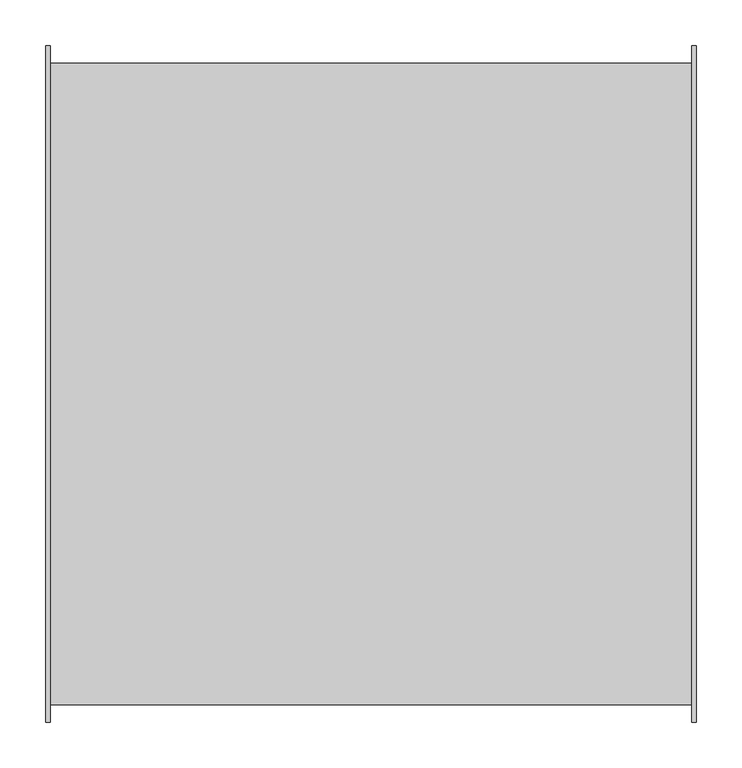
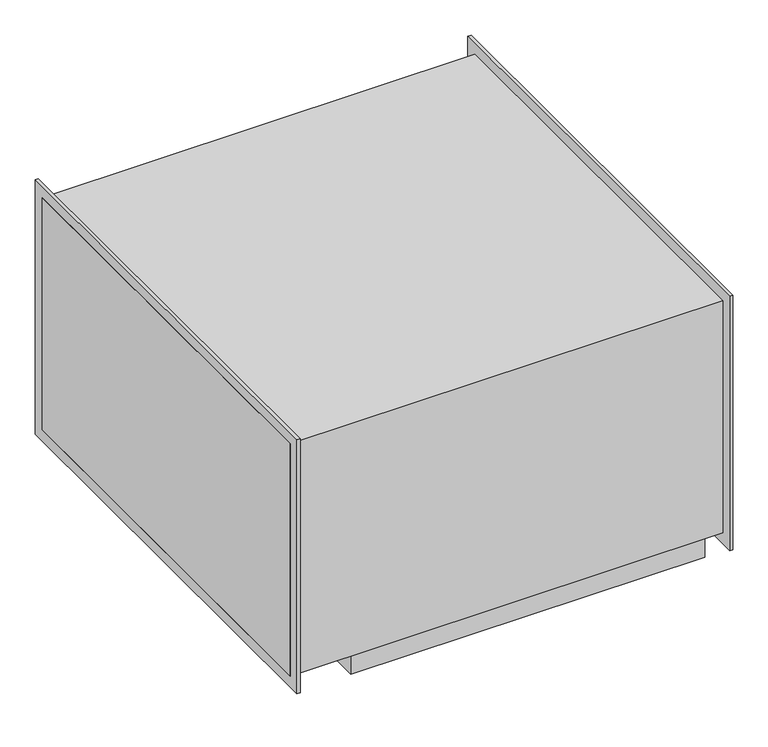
"""IFC4 building model written with IfcOpenShell, lengths in millimetres: unitary equipment geometry, VE-Wentylator-ParaForma-Harmann-DRB-Nawiewny : 070/40/5000T."""

from ifc_helpers import new_model, si_unit, point, frame, frame_2d, origin, place, context, project, spatial, polyline, circle_curve, trimmed, segment, composite_curve, outline, extrude, faceted_brep, source, transform, mapped, element, save
from ifc_brep_helpers import plane_surface, revolved_surface, advanced_brep


def unitary_equipment_7a74215c(model_context):
    return source(origin(), model_context, "Body", "SolidModel", [
        faceted_brep([(-254.4, -347.0, -234.0), (-254.4, -347.0, -200.0), (-254.4, 347.0, -200.0), (-254.4, 347.0, -234.0), (322.1, -347.0, -234.0), (322.1, 347.0, -234.0), (322.1, 347.0, -200.0), (322.1, -347.0, -200.0), (-249.4, 342.0, -234.0), (-249.4, -342.0, -234.0), (317.1, -342.0, -234.0), (317.1, 342.0, -234.0), (-249.4, 342.0, -200.0), (-249.4, -342.0, -200.0), (317.1, -342.0, -200.0), (317.1, 342.0, -200.0), (-355.0, -350.0, 200.0), (-355.0, -350.0, -200.0), (355.0, -350.0, -200.0), (355.0, -350.0, 200.0), (-355.0, 350.0, 200.0), (355.0, 350.0, 200.0), (-355.0, 350.0, -200.0), (355.0, 350.0, -200.0)], [[[0, 1, 2, 3]], [[4, 5, 6, 7]], [[1, 0, 4, 7]], [[3, 2, 6, 5]], [[0, 3, 5, 4], [8, 9, 10, 11]], [[8, 12, 13, 9]], [[10, 14, 15, 11]], [[9, 13, 14, 10]], [[12, 8, 11, 15]], [[16, 17, 18, 19]], [[20, 16, 19, 21]], [[22, 20, 21, 23]], [[13, 12, 15, 14]], [[18, 17, 22, 23], [2, 1, 7, 6]], [[17, 16, 20, 22]], [[18, 23, 21, 19]]]),
        extrude(outline(polyline([(-369.2, -219.2), (-369.2, 219.2), (369.2, 219.2), (369.2, -219.2), (-369.2, -219.2)]), holes=[polyline([(-350.0, -200.0), (350.0, -200.0), (350.0, 200.0), (-350.0, 200.0), (-350.0, -200.0)])]), frame((350.0, 0.0, 0.0), z_axis=(1.0, 0.0, 0.0), x_axis=(0.0, 1.0, 0.0)), (0.0, 0.0, 1.0), 5.0),
        extrude(outline(polyline([(-369.2, -219.2), (-369.2, 219.2), (369.2, 219.2), (369.2, -219.2), (-369.2, -219.2)]), holes=[polyline([(-350.0, -200.0), (350.0, -200.0), (350.0, 200.0), (-350.0, 200.0), (-350.0, -200.0)])]), frame((-355.0, 0.0, 0.0), z_axis=(1.0, 0.0, 0.0), x_axis=(0.0, 1.0, 0.0)), (0.0, 0.0, 1.0), 5.0),
        extrude(outline(composite_curve([segment(polyline([(77.5, 227.3), (-22.5, 227.3)]), True, "CONTINUOUS"), segment(trimmed(circle_curve(frame_2d((-22.5, 232.3)), 5.0), [point((-22.5, 227.3))], [point((-27.5, 232.3))], False, "CARTESIAN"), True, "CONTINUOUS"), segment(polyline([(-27.5, 232.3), (-27.5, 317.3)]), True, "CONTINUOUS"), segment(trimmed(circle_curve(frame_2d((-22.5, 317.3)), 5.0), [point((-27.5, 317.3))], [point((-22.5, 322.3))], False, "CARTESIAN"), True, "CONTINUOUS"), segment(polyline([(-22.5, 322.3), (77.5, 322.3)]), True, "CONTINUOUS"), segment(trimmed(circle_curve(frame_2d((77.5, 317.3)), 5.0), [point((77.5, 322.3))], [point((82.5, 317.3))], False, "CARTESIAN"), True, "CONTINUOUS"), segment(polyline([(82.5, 317.3), (82.5, 232.3)]), True, "CONTINUOUS"), segment(trimmed(circle_curve(frame_2d((77.5, 232.3)), 5.0), [point((82.5, 232.3))], [point((77.5, 227.3))], False, "CARTESIAN"), True, "CONTINUOUS")], self_intersect=False)), frame((0.0, 0.0, -249.5), z_axis=(0.0, 0.0, 1.0), x_axis=(1.0, 0.0, 0.0)), (0.0, 0.0, 1.0), 49.5),
        advanced_brep(
        [(27.5, -96.25, -215.0), (27.5, 4.25, -215.0), (27.5, -107.25, -200.0), (27.5, 15.25, -200.0)],
        [
            (0, 1, circle_curve(frame((27.5, -46.0, -215.0), z_axis=(0.0, 0.0, -1.0), x_axis=(0.0, -1.0, 0.0)), 50.25)),
            (1, 0, circle_curve(frame((27.5, -46.0, -215.0), z_axis=(0.0, 0.0, -1.0), x_axis=(0.0, 1.0, 0.0)), 50.25)),
            (2, 3, circle_curve(frame((27.5, -46.0, -200.0), z_axis=(0.0, 0.0, 1.0), x_axis=(0.0, 1.0, 0.0)), 61.25)),
            (3, 2, circle_curve(frame((27.5, -46.0, -200.0), z_axis=(0.0, 0.0, 1.0), x_axis=(0.0, -1.0, 0.0)), 61.25)),
            (3, 1),
            (0, 2),
        ],
        [
            plane_surface(frame((27.5, -46.0, -215.0), z_axis=(0.0, 0.0, -1.0), x_axis=(-1.0, 0.0, 0.0))),
            plane_surface(frame((27.5, -46.0, -200.0), z_axis=(0.0, 0.0, 1.0), x_axis=(-1.0, 0.0, 0.0))),
            revolved_surface(polyline([(27.5, -96.25000000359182, -215.0), (27.5, -107.25, -200.0)]), (27.5, -46.0, -283.5227273), (0.0, 0.0, 1.0)),
            revolved_surface(polyline([(27.5, 4.250000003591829, -215.0), (27.5, 15.25, -200.0)]), (27.5, -46.0, -283.5227273), (0.0, 0.0, 1.0)),
        ],
        [
            (0, [[1, 2]]),
            (1, [[3, 4]]),
            (2, [[-4, 5, -1, 6]]),
            (3, [[-3, -6, -2, -5]]),
        ],
    ),
    ])


if __name__ == "__main__":
    model = new_model("IFC4")
    model_context = context("Model", 3, world=origin())
    ifc_project = project(units=[si_unit("LENGTHUNIT", "METRE", prefix="MILLI")], contexts=[model_context])
    site = spatial("IfcSite", under=ifc_project)
    building = spatial("IfcBuilding", under=site)
    placement = place(None, origin())
    unitary_equipment_shape = unitary_equipment_7a74215c(model_context)
    element("IfcUnitaryEquipment", 1, ObjectType="VE-Wentylator-ParaForma-Harmann-DRB-Nawiewny : 070/40/5000T", at=placement, inside=building, context=model_context, shape_type="MappedRepresentation", body=[
        mapped(unitary_equipment_shape, transform((0.0, 0.0, 0.0), x_axis=(1.0, 0.0, 0.0), y_axis=(0.0, 1.0, 0.0), z_axis=(0.0, 0.0, 1.0))),
    ])
    save(model, "model.ifc")
